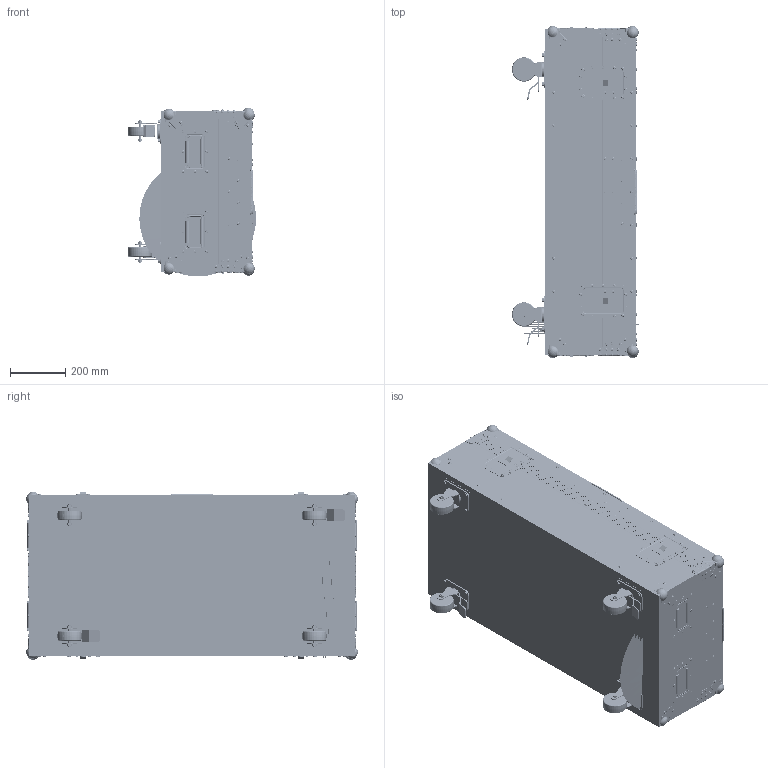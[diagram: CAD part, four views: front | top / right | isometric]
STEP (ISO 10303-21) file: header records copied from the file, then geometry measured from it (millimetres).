
FILE_DESCRIPTION((''),'2;1');
FILE_NAME('0-ML-P100X1-IP000_ASM','2026-08-07T11:28:21',('000145'),(''),'CREO PARAMETRIC BY PTC INC, 2018400','CREO PARAMETRIC BY PTC INC, 2018400','');
FILE_SCHEMA(('CONFIG_CONTROL_DESIGN'));
Products named in the file (39): 0003; 0005; 0006; 0004_ASM; _C0001; _A0001; _D0001; 000; 0008; 00; 1-202306250; 001; 0014; 001_ASM; 0016; 23100138A-0001; 0_ASM; 0002_ASM; 0019; 0020; 0021; _F0001; _E0001; _B0001; 2202306250; 0022; 0023; 0024; 0025_ASM; 002_ASM; 0018_ASM; _A00; _B00; 0027; 0028; 0-ML-P100X1-IP000_ASM
Assembly tree (376 placements, depth 4):
  0-ML-P100X1-IP000_ASM
    0002_ASM
      0003
      0004_ASM
        0005
        0006
      _C0001  x2
      _A0001  x4
      _D0001  x2
      000  x4
      0008
      00  x4
      1-202306250  x2
      00  x110
      001_ASM  x4
        001
        00
        0014
      001_ASM
        0016
        23100138A-0001
      0_ASM  x2
        1-202306250
        00
    0018_ASM
      0019
      0020
      0021
      _C0001  x2
      _F0001
      _E0001  x2
      _B0001  x4
      000  x4
      00  x4
      2202306250  x2
      00  x165
      0022  x4
      0023
      0024  x2
      0025_ASM
        0024
        00  x8
      002_ASM  x2
        2202306250
        00
    _A00  x2
    _B00  x2
    0027  x2
    0028
Bounding box: 463.79 x 1200 x 610.74 mm (x, y, z)
Volume: 308211030.5 mm3; surface area: 17999824 mm2
Topology: 400 solids, 424 shells, 11545 faces, 29426 edges, 18889 vertices
Faces by surface type: cylinder 4931, plane 3909, torus 1674, bspline 899, cone 72, sphere 60
Entity records: 127243 total; most frequent: CARTESIAN_POINT 36230, DIRECTION 19595, ORIENTED_EDGE 18224, EDGE_CURVE 9151, AXIS2_PLACEMENT_3D 7054, VERTEX_POINT 5949, VECTOR 5487, LINE 5487
